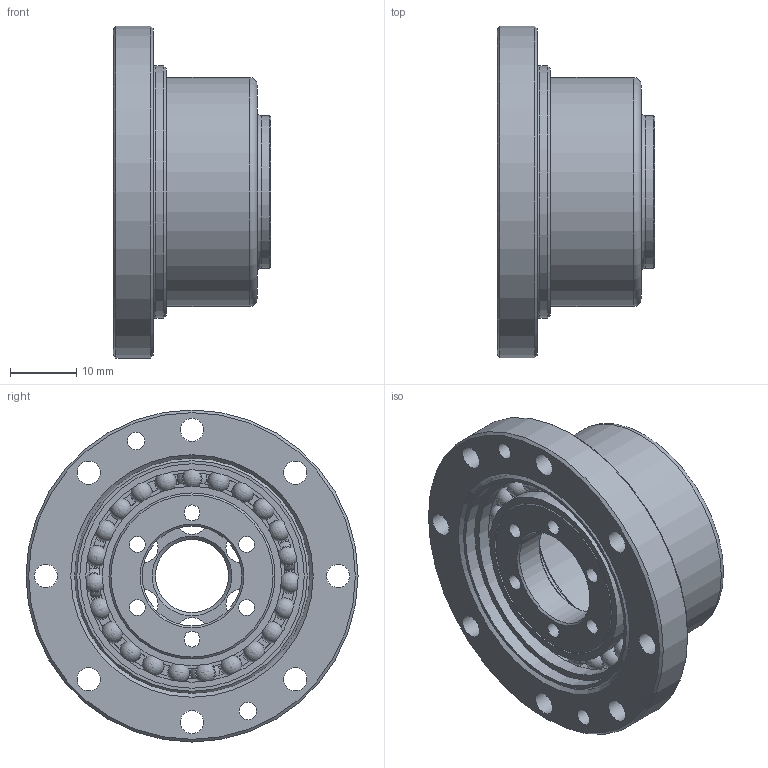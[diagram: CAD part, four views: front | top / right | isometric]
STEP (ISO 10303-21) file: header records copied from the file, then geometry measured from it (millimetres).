
FILE_DESCRIPTION(/* description */ (''),/* implementation_level */ '2;1');
FILE_NAME(/* name */ 'Getriebeset_CTG_35_HS.stp',/* time_stamp */ '2026-03-09T10:49:49+01:00',/* author */ (''),/* organization */ (''),/* preprocessor_version */ 'ST-DEVELOPER v19.4',/* originating_system */ 'SIEMENS PLM Software NX2212.9120',/* authorisation */ '');
FILE_SCHEMA (('AUTOMOTIVE_DESIGN { 1 0 10303 214 3 1 1 1 }'));
Length unit declared in the file: millimetre
Products named in the file (1): Getriebeset_CTG_35_HS
Bounding box: 23.7 x 50 x 50 mm (x, y, z)
Volume: 11045.7 mm3; surface area: 17074.7 mm2
Topology: 29 solids, 29 shells, 246 faces, 695 edges, 467 vertices
Faces by surface type: cylinder 81, plane 67, torus 46, sphere 35, cone 15, bspline 2
Full cylindrical faces by diameter (mm): 2.4 x6, 2.6 x4, 3.5 x8, 4.5 x6, 11 x1, 15 x1, 22.5 x1, 23 x1, 25 x2, 27 x3, 30 x1, 32 x2, 33.8 x2, 34.5 x1, 35 x1, 35.5 x1, 38 x1, 50 x1
Entity records: 9515 total; most frequent: CARTESIAN_POINT 3794, DIRECTION 1070, ORIENTED_EDGE 1044, EDGE_CURVE 522, AXIS2_PLACEMENT_3D 497, VERTEX_POINT 407, EDGE_LOOP 356, CIRCLE 252
